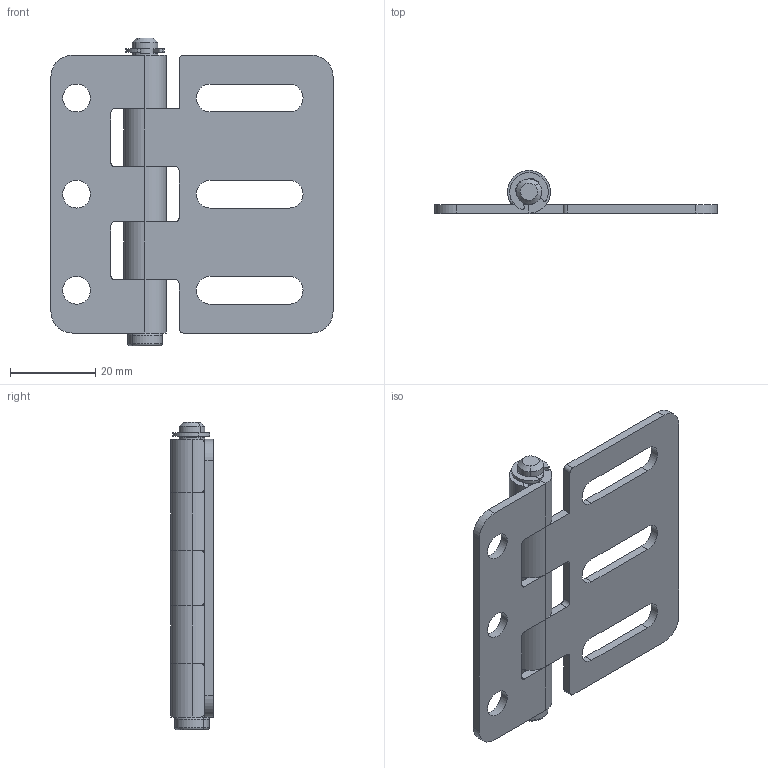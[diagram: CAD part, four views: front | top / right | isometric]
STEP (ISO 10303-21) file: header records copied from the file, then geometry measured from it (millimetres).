
FILE_DESCRIPTION (( 'STEP AP203' ), '1' );
FILE_NAME ('CL156S4A001.STEP', '2016-07-13T06:12:20', ( 'master' ), ( 'Microsoft' ), 'SwSTEP 2.0', 'SolidWorks 2014', '' );
FILE_SCHEMA (( 'CONFIG_CONTROL_DESIGN' ));
Length unit declared in the file: millimetre
Products named in the file (5): E rings GB_GB_CONNECTING_PIECE_RINGS_HR 4; CL156S4A001; 8SJ.CL156-2.0470蝓蟈珜1; 8SJ.CL156-2.0471蝓蟈珜2; 8SJ.CL156-2.0090蛌粣
Assembly tree (4 placements, depth 2):
  CL156S4A001
    8SJ.CL156-2.0470蝓蟈珜1
    8SJ.CL156-2.0471蝓蟈珜2
    8SJ.CL156-2.0090蛌粣
    E rings GB_GB_CONNECTING_PIECE_RINGS_HR 4
Bounding box: 66 x 10 x 72 mm (x, y, z)
Volume: 11229.1 mm3; surface area: 12443.3 mm2
Topology: 4 solids, 4 shells, 147 faces, 398 edges, 262 vertices
Faces by surface type: cylinder 92, plane 49, torus 4, cone 2
Entity records: 5373 total; most frequent: CARTESIAN_POINT 994, DIRECTION 860, ORIENTED_EDGE 796, EDGE_CURVE 398, AXIS2_PLACEMENT_3D 328, VERTEX_POINT 262, VECTOR 204, LINE 204
